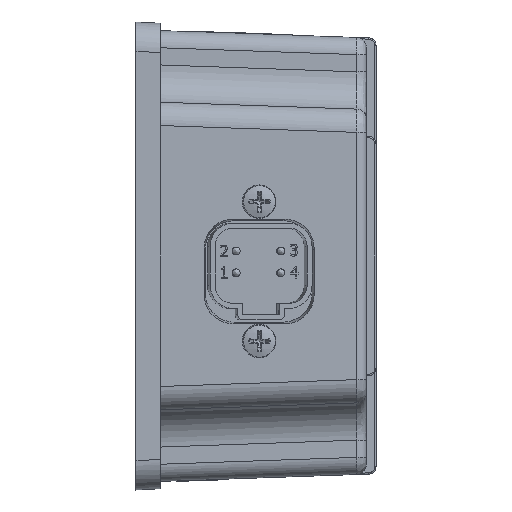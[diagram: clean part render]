
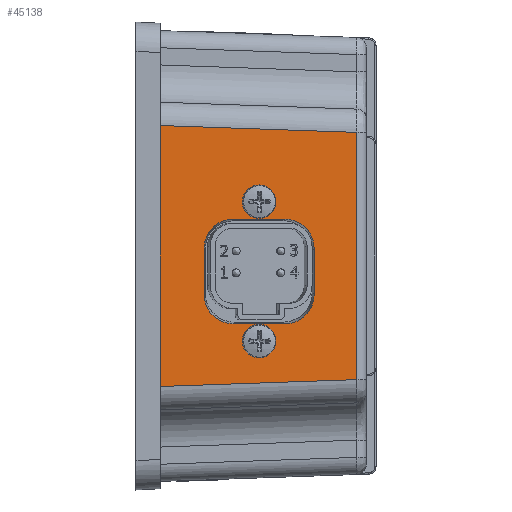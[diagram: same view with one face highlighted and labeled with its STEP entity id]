
A CAD part, left-side view. The second image highlights one B-rep face of the part: STEP entity #45138.
In plain terms, the highlighted planar face has unit normal (-0.999, -0.035, 0).
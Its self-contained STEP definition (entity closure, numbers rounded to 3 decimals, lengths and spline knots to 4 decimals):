
#1790=ELLIPSE('',#47358,0.2388,0.2362);
#1791=ELLIPSE('',#47359,0.2388,0.2362);
#1792=ELLIPSE('',#47360,0.2388,0.2362);
#1793=ELLIPSE('',#47361,0.2388,0.2362);
#2410=FACE_BOUND('',#7239,.T.);
#2411=FACE_BOUND('',#7240,.T.);
#2412=FACE_BOUND('',#7241,.T.);
#4572=FACE_OUTER_BOUND('',#7238,.T.);
#7238=EDGE_LOOP('',(#36313,#36314,#36315,#36316));
#7239=EDGE_LOOP('',(#36317));
#7240=EDGE_LOOP('',(#36318));
#7241=EDGE_LOOP('',(#36319,#36320,#36321,#36322,#36323,#36324,#36325,#36326));
#8072=CIRCLE('',#47232,0.135);
#8097=CIRCLE('',#47357,0.135);
#11637=LINE('',#73016,#15859);
#11904=LINE('',#75111,#16126);
#11908=LINE('',#75121,#16130);
#11909=LINE('',#75122,#16131);
#11910=LINE('',#75127,#16132);
#11911=LINE('',#75131,#16133);
#11912=LINE('',#75135,#16134);
#11913=LINE('',#75139,#16135);
#15859=VECTOR('',#54469,0.3937);
#16126=VECTOR('',#55166,0.1969);
#16130=VECTOR('',#55176,0.3937);
#16131=VECTOR('',#55177,0.1969);
#16132=VECTOR('',#55180,0.3937);
#16133=VECTOR('',#55183,0.3937);
#16134=VECTOR('',#55186,0.3937);
#16135=VECTOR('',#55189,0.3937);
#19668=VERTEX_POINT('',#73013);
#19669=VERTEX_POINT('',#73015);
#19738=VERTEX_POINT('',#73306);
#19970=VERTEX_POINT('',#75110);
#19973=VERTEX_POINT('',#75120);
#19974=VERTEX_POINT('',#75123);
#19975=VERTEX_POINT('',#75125);
#19976=VERTEX_POINT('',#75126);
#19977=VERTEX_POINT('',#75128);
#19978=VERTEX_POINT('',#75130);
#19979=VERTEX_POINT('',#75132);
#19980=VERTEX_POINT('',#75134);
#19981=VERTEX_POINT('',#75136);
#19982=VERTEX_POINT('',#75138);
#25118=EDGE_CURVE('',#19668,#19669,#11637,.T.);
#25216=EDGE_CURVE('',#19738,#19738,#8072,.T.);
#25556=EDGE_CURVE('',#19669,#19970,#11904,.T.);
#25561=EDGE_CURVE('',#19970,#19973,#11908,.T.);
#25562=EDGE_CURVE('',#19973,#19668,#11909,.T.);
#25563=EDGE_CURVE('',#19974,#19974,#8097,.T.);
#25564=EDGE_CURVE('',#19975,#19976,#11910,.T.);
#25565=EDGE_CURVE('',#19977,#19976,#1790,.T.);
#25566=EDGE_CURVE('',#19977,#19978,#11911,.T.);
#25567=EDGE_CURVE('',#19979,#19978,#1791,.T.);
#25568=EDGE_CURVE('',#19979,#19980,#11912,.T.);
#25569=EDGE_CURVE('',#19981,#19980,#1792,.T.);
#25570=EDGE_CURVE('',#19981,#19982,#11913,.T.);
#25571=EDGE_CURVE('',#19975,#19982,#1793,.T.);
#36313=ORIENTED_EDGE('',*,*,#25561,.F.);
#36314=ORIENTED_EDGE('',*,*,#25556,.F.);
#36315=ORIENTED_EDGE('',*,*,#25118,.F.);
#36316=ORIENTED_EDGE('',*,*,#25562,.F.);
#36317=ORIENTED_EDGE('',*,*,#25563,.T.);
#36318=ORIENTED_EDGE('',*,*,#25216,.T.);
#36319=ORIENTED_EDGE('',*,*,#25564,.T.);
#36320=ORIENTED_EDGE('',*,*,#25565,.F.);
#36321=ORIENTED_EDGE('',*,*,#25566,.T.);
#36322=ORIENTED_EDGE('',*,*,#25567,.F.);
#36323=ORIENTED_EDGE('',*,*,#25568,.T.);
#36324=ORIENTED_EDGE('',*,*,#25569,.F.);
#36325=ORIENTED_EDGE('',*,*,#25570,.T.);
#36326=ORIENTED_EDGE('',*,*,#25571,.F.);
#40733=PLANE('',#47356);
#45138=ADVANCED_FACE('',(#4572,#2410,#2411,#2412),#40733,.T.);
#47232=AXIS2_PLACEMENT_3D('',#73307,#54680,#54681);
#47356=AXIS2_PLACEMENT_3D('',#75119,#55174,#55175);
#47357=AXIS2_PLACEMENT_3D('',#75124,#55178,#55179);
#47358=AXIS2_PLACEMENT_3D('',#75129,#55181,#55182);
#47359=AXIS2_PLACEMENT_3D('',#75133,#55184,#55185);
#47360=AXIS2_PLACEMENT_3D('',#75137,#55187,#55188);
#47361=AXIS2_PLACEMENT_3D('',#75140,#55190,#55191);
#54469=DIRECTION('',(0.,0.,1.));
#54680=DIRECTION('center_axis',(0.999,0.035,0.));
#54681=DIRECTION('ref_axis',(-0.035,0.999,-0.002));
#55166=DIRECTION('',(0.035,-0.999,-0.035));
#55174=DIRECTION('center_axis',(-0.999,-0.035,
0.));
#55175=DIRECTION('ref_axis',(0.,0.,
-1.));
#55176=DIRECTION('',(0.,0.,-1.));
#55177=DIRECTION('',(-0.035,0.999,-0.035));
#55178=DIRECTION('center_axis',(0.999,0.035,0.));
#55179=DIRECTION('ref_axis',(-0.035,0.999,-0.002));
#55180=DIRECTION('',(0.,0.,-1.));
#55181=DIRECTION('center_axis',(-0.999,-0.035,
0.));
#55182=DIRECTION('ref_axis',(0.025,-0.707,-0.707));
#55183=DIRECTION('',(-0.035,0.999,0.));
#55184=DIRECTION('center_axis',(-0.999,-0.035,
0.));
#55185=DIRECTION('ref_axis',(-0.025,0.707,-0.707));
#55186=DIRECTION('',(0.,0.,1.));
#55187=DIRECTION('center_axis',(-0.999,-0.035,
0.));
#55188=DIRECTION('ref_axis',(-0.025,0.707,0.707));
#55189=DIRECTION('',(0.035,-0.999,0.));
#55190=DIRECTION('center_axis',(-0.999,-0.035,
0.));
#55191=DIRECTION('ref_axis',(0.025,-0.707,0.707));
#73013=CARTESIAN_POINT('',(-3.15,1.3286,-1.0485));
#73015=CARTESIAN_POINT('',(-3.15,1.3286,1.0485));
#73016=CARTESIAN_POINT('',(-3.15,1.3286,-1.2205));
#73306=CARTESIAN_POINT('',(-3.127,0.6709,-0.6843));
#73307=CARTESIAN_POINT('Origin',(-3.1223,0.536,-0.684));
#75110=CARTESIAN_POINT('',(-3.0949,-0.2489,0.9934));
#75111=CARTESIAN_POINT('',(-3.15,1.3284,1.0485));
#75119=CARTESIAN_POINT('Origin',(-3.15,1.3286,-1.2205));
#75120=CARTESIAN_POINT('',(-3.0949,-0.2489,-0.9934));
#75121=CARTESIAN_POINT('',(-3.0949,-0.2489,-0.6102));
#75122=CARTESIAN_POINT('',(-3.1501,1.3325,-1.0486));
#75123=CARTESIAN_POINT('',(-3.127,0.6709,0.4357));
#75124=CARTESIAN_POINT('Origin',(-3.1223,0.536,0.436));
#75125=CARTESIAN_POINT('',(-3.1068,0.0938,0.0615));
#75126=CARTESIAN_POINT('',(-3.1068,0.0938,-0.3095));
#75127=CARTESIAN_POINT('',(-3.1068,0.0938,-0.8762));
#75128=CARTESIAN_POINT('',(-3.115,0.3286,-0.5444));
#75129=CARTESIAN_POINT('Origin',(-3.1151,0.3312,-0.3069));
#75130=CARTESIAN_POINT('',(-3.1295,0.7433,-0.5444));
#75131=CARTESIAN_POINT('',(-3.1436,1.1472,-0.5444));
#75132=CARTESIAN_POINT('',(-3.1377,0.9781,-0.3095));
#75133=CARTESIAN_POINT('Origin',(-3.1294,0.7407,-0.3069));
#75134=CARTESIAN_POINT('',(-3.1377,0.9781,0.0615));
#75135=CARTESIAN_POINT('',(-3.1377,0.9781,-0.4682));
#75136=CARTESIAN_POINT('',(-3.1295,0.7433,0.2964));
#75137=CARTESIAN_POINT('Origin',(-3.1294,0.7407,0.0589));
#75138=CARTESIAN_POINT('',(-3.115,0.3286,0.2964));
#75139=CARTESIAN_POINT('',(-3.1286,0.7174,0.2964));
#75140=CARTESIAN_POINT('Origin',(-3.1151,0.3312,0.0589));
